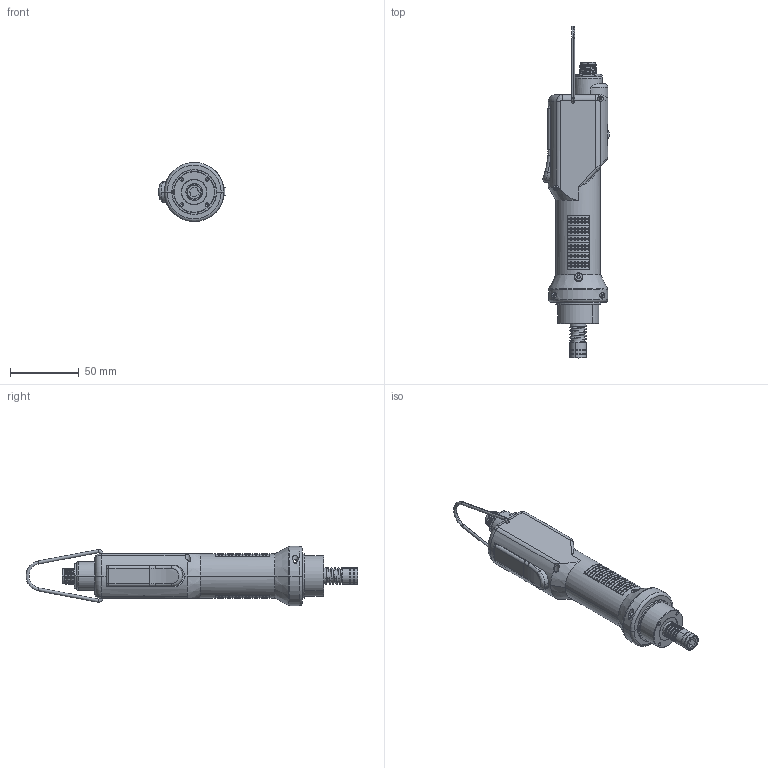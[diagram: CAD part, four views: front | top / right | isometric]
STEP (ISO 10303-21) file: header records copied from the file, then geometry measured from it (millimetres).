
FILE_DESCRIPTION (( 'STEP AP214' ), '1' );
FILE_NAME ('Mito 15D_TA.STEP', '2014-03-13T07:16:29', ( '' ), ( '' ), 'SwSTEP 2.0', 'SolidWorks 2013', '' );
FILE_SCHEMA (( 'AUTOMOTIVE_DESIGN' ));
Length unit declared in the file: millimetre
Products named in the file (1): Mito 15D_TA
Bounding box: 48.67 x 242.29 x 43.3 mm (x, y, z)
Volume: 57125.4 mm3; surface area: 61063.5 mm2
Topology: 23 solids, 23 shells, 2213 faces, 5453 edges, 3494 vertices
Faces by surface type: plane 1099, cylinder 725, cone 271, torus 54, bspline 53, sphere 11
Entity records: 104242 total; most frequent: CARTESIAN_POINT 26630, DIRECTION 11451, ORIENTED_EDGE 10824, EDGE_CURVE 5412, AXIS2_PLACEMENT_3D 4289, VERTEX_POINT 3482, VECTOR 2873, LINE 2873
